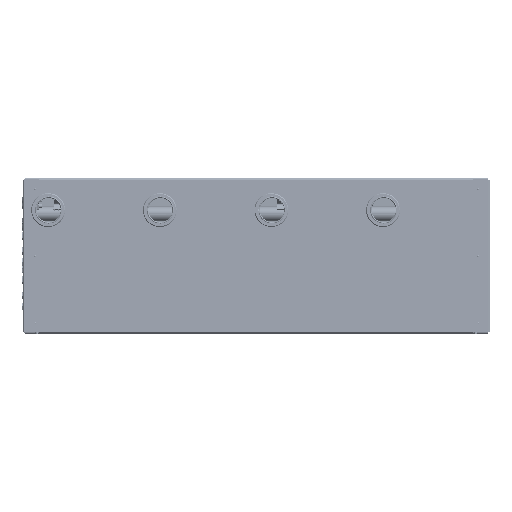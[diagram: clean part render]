
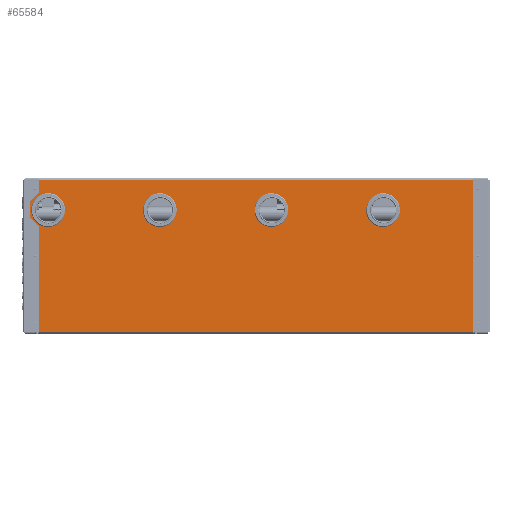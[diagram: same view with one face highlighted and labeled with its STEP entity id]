
A CAD part, top view. The second image highlights one B-rep face of the part: STEP entity #65584.
In plain terms, the highlighted planar face has unit normal (0, 0.018, 1) as drawn and (-0.017, 0, 1) by its records, which use the part's own axes.
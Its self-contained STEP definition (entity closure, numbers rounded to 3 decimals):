
#6856=CIRCLE('',#70906,1.75);
#6857=CIRCLE('',#70907,1.75);
#6858=CIRCLE('',#70908,1.75);
#6859=CIRCLE('',#70909,1.75);
#6860=CIRCLE('',#70910,1.75);
#6861=CIRCLE('',#70911,1.75);
#6862=CIRCLE('',#70912,68.);
#6863=CIRCLE('',#70913,68.);
#6864=CIRCLE('',#70914,68.);
#6865=CIRCLE('',#70915,68.);
#20251=ORIENTED_EDGE('',*,*,#29594,.F.);
#20252=ORIENTED_EDGE('',*,*,#29595,.F.);
#20253=ORIENTED_EDGE('',*,*,#29596,.F.);
#20254=ORIENTED_EDGE('',*,*,#29597,.T.);
#20255=ORIENTED_EDGE('',*,*,#29598,.T.);
#20256=ORIENTED_EDGE('',*,*,#29599,.T.);
#20257=ORIENTED_EDGE('',*,*,#29600,.F.);
#20258=ORIENTED_EDGE('',*,*,#29601,.F.);
#20259=ORIENTED_EDGE('',*,*,#29517,.T.);
#20260=ORIENTED_EDGE('',*,*,#29602,.F.);
#20261=ORIENTED_EDGE('',*,*,#29603,.F.);
#20262=ORIENTED_EDGE('',*,*,#29604,.T.);
#20263=ORIENTED_EDGE('',*,*,#29605,.F.);
#20264=ORIENTED_EDGE('',*,*,#29606,.F.);
#29517=EDGE_CURVE('',#35460,#35459,#40401,.T.);
#29594=EDGE_CURVE('',#35518,#35518,#6856,.T.);
#29595=EDGE_CURVE('',#35519,#35519,#6857,.T.);
#29596=EDGE_CURVE('',#35520,#35520,#6858,.T.);
#29597=EDGE_CURVE('',#35521,#35521,#6859,.T.);
#29598=EDGE_CURVE('',#35522,#35522,#6860,.T.);
#29599=EDGE_CURVE('',#35523,#35523,#6861,.T.);
#29600=EDGE_CURVE('',#35524,#35524,#6862,.F.);
#29601=EDGE_CURVE('',#35525,#35525,#6863,.F.);
#29602=EDGE_CURVE('',#35526,#35459,#40408,.T.);
#29603=EDGE_CURVE('',#35527,#35526,#40409,.T.);
#29604=EDGE_CURVE('',#35527,#35460,#40410,.T.);
#29605=EDGE_CURVE('',#35528,#35528,#6864,.F.);
#29606=EDGE_CURVE('',#35529,#35529,#6865,.F.);
#35459=VERTEX_POINT('',#136309);
#35460=VERTEX_POINT('',#136311);
#35518=VERTEX_POINT('',#136456);
#35519=VERTEX_POINT('',#136458);
#35520=VERTEX_POINT('',#136460);
#35521=VERTEX_POINT('',#136462);
#35522=VERTEX_POINT('',#136464);
#35523=VERTEX_POINT('',#136466);
#35524=VERTEX_POINT('',#136468);
#35525=VERTEX_POINT('',#136470);
#35526=VERTEX_POINT('',#136472);
#35527=VERTEX_POINT('',#136474);
#35528=VERTEX_POINT('',#136477);
#35529=VERTEX_POINT('',#136479);
#40401=LINE('',#136310,#45244);
#40408=LINE('',#136471,#45251);
#40409=LINE('',#136473,#45252);
#40410=LINE('',#136475,#45253);
#45244=VECTOR('',#84080,1000.);
#45251=VECTOR('',#84263,1000.);
#45252=VECTOR('',#84264,1000.);
#45253=VECTOR('',#84265,1000.);
#50320=EDGE_LOOP('',(#20251));
#50321=EDGE_LOOP('',(#20252));
#50322=EDGE_LOOP('',(#20253));
#50323=EDGE_LOOP('',(#20254));
#50324=EDGE_LOOP('',(#20255));
#50325=EDGE_LOOP('',(#20256));
#50326=EDGE_LOOP('',(#20257));
#50327=EDGE_LOOP('',(#20258));
#50328=EDGE_LOOP('',(#20259,#20260,#20261,#20262));
#50329=EDGE_LOOP('',(#20263));
#50330=EDGE_LOOP('',(#20264));
#55438=FACE_BOUND('',#50320,.T.);
#55439=FACE_BOUND('',#50321,.T.);
#55440=FACE_BOUND('',#50322,.T.);
#55441=FACE_BOUND('',#50323,.T.);
#55442=FACE_BOUND('',#50324,.T.);
#55443=FACE_BOUND('',#50325,.T.);
#55444=FACE_BOUND('',#50326,.T.);
#55445=FACE_BOUND('',#50327,.T.);
#55446=FACE_BOUND('',#50328,.T.);
#55447=FACE_BOUND('',#50329,.T.);
#55448=FACE_BOUND('',#50330,.T.);
#58005=PLANE('',#70905);
#65584=ADVANCED_FACE('',(#55438,#55439,#55440,#55441,#55442,#55443,#55444,
#55445,#55446,#55447,#55448),#58005,.F.);
#70905=AXIS2_PLACEMENT_3D('',#136454,#84245,#84246);
#70906=AXIS2_PLACEMENT_3D('',#136455,#84247,#84248);
#70907=AXIS2_PLACEMENT_3D('',#136457,#84249,#84250);
#70908=AXIS2_PLACEMENT_3D('',#136459,#84251,#84252);
#70909=AXIS2_PLACEMENT_3D('',#136461,#84253,#84254);
#70910=AXIS2_PLACEMENT_3D('',#136463,#84255,#84256);
#70911=AXIS2_PLACEMENT_3D('',#136465,#84257,#84258);
#70912=AXIS2_PLACEMENT_3D('',#136467,#84259,#84260);
#70913=AXIS2_PLACEMENT_3D('',#136469,#84261,#84262);
#70914=AXIS2_PLACEMENT_3D('',#136476,#84266,#84267);
#70915=AXIS2_PLACEMENT_3D('',#136478,#84268,#84269);
#84080=DIRECTION('',(-1.,0.,-0.017));
#84245=DIRECTION('',(0.017,0.,-1.));
#84246=DIRECTION('',(-1.,0.,-0.017));
#84247=DIRECTION('',(-0.017,0.,1.));
#84248=DIRECTION('',(0.,1.,0.));
#84249=DIRECTION('',(-0.017,0.,1.));
#84250=DIRECTION('',(0.,1.,0.));
#84251=DIRECTION('',(-0.017,0.,1.));
#84252=DIRECTION('',(0.,1.,0.));
#84253=DIRECTION('',(0.017,0.,-1.));
#84254=DIRECTION('',(0.,1.,0.));
#84255=DIRECTION('',(0.017,0.,-1.));
#84256=DIRECTION('',(0.,1.,0.));
#84257=DIRECTION('',(0.017,0.,-1.));
#84258=DIRECTION('',(0.,1.,0.));
#84259=DIRECTION('',(0.017,0.,-1.));
#84260=DIRECTION('',(-1.,0.,-0.017));
#84261=DIRECTION('',(0.017,0.,-1.));
#84262=DIRECTION('',(-1.,0.,-0.017));
#84263=DIRECTION('',(0.,1.,0.));
#84264=DIRECTION('',(-1.,0.,-0.017));
#84265=DIRECTION('',(0.,1.,0.));
#84266=DIRECTION('',(0.017,0.,-1.));
#84267=DIRECTION('',(-1.,0.,-0.017));
#84268=DIRECTION('',(0.017,0.,-1.));
#84269=DIRECTION('',(-1.,0.,-0.017));
#136309=CARTESIAN_POINT('',(-305.75,896.25,16.663));
#136310=CARTESIAN_POINT('',(305.75,896.25,27.337));
#136311=CARTESIAN_POINT('',(305.75,896.25,27.337));
#136454=CARTESIAN_POINT('',(305.75,-949.25,27.337));
#136455=CARTESIAN_POINT('',(269.962,874.25,26.712));
#136456=CARTESIAN_POINT('',(269.962,876.,26.712));
#136457=CARTESIAN_POINT('',(0.003,874.25,22.));
#136458=CARTESIAN_POINT('',(0.003,876.,22.));
#136459=CARTESIAN_POINT('',(-269.955,874.25,17.288));
#136460=CARTESIAN_POINT('',(-269.955,876.,17.288));
#136461=CARTESIAN_POINT('',(269.962,-906.75,26.712));
#136462=CARTESIAN_POINT('',(269.962,-905.,26.712));
#136463=CARTESIAN_POINT('',(0.003,-906.75,22.));
#136464=CARTESIAN_POINT('',(0.003,-905.,22.));
#136465=CARTESIAN_POINT('',(-269.955,-906.75,17.288));
#136466=CARTESIAN_POINT('',(-269.955,-905.,17.288));
#136467=CARTESIAN_POINT('',(-184.508,44.25,18.779));
#136468=CARTESIAN_POINT('',(-252.498,44.25,17.593));
#136469=CARTESIAN_POINT('',(-184.508,-853.75,18.779));
#136470=CARTESIAN_POINT('',(-252.498,-853.75,17.593));
#136471=CARTESIAN_POINT('',(-305.75,-949.25,16.663));
#136472=CARTESIAN_POINT('',(-305.75,-928.75,16.663));
#136473=CARTESIAN_POINT('',(305.75,-928.75,27.337));
#136474=CARTESIAN_POINT('',(305.75,-928.75,27.337));
#136475=CARTESIAN_POINT('',(305.75,-949.25,27.337));
#136476=CARTESIAN_POINT('',(-184.508,493.25,18.779));
#136477=CARTESIAN_POINT('',(-252.498,493.25,17.593));
#136478=CARTESIAN_POINT('',(-184.508,-404.75,18.779));
#136479=CARTESIAN_POINT('',(-252.498,-404.75,17.593));
